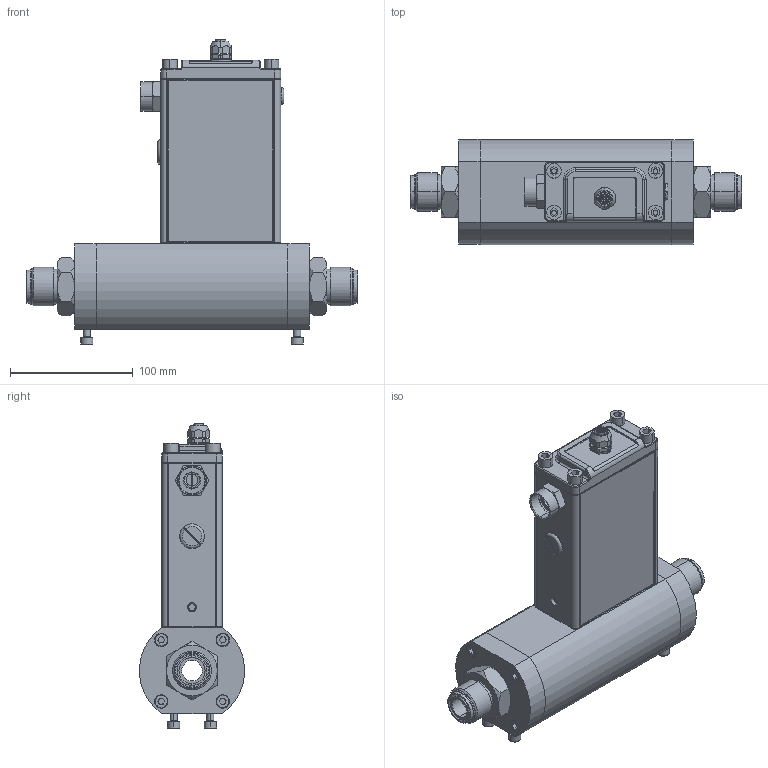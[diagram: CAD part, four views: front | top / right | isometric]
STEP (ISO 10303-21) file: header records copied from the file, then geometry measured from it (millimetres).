
FILE_DESCRIPTION (( 'STEP AP203' ), '1' );
FILE_NAME ('SLAMF63T2Uxx0AxxxREVB.STEP', '2016-09-27T18:24:41', ( 'mrutkowski' ), ( 'Hewlett-Packard Company' ), 'SwSTEP 2.0', 'SolidWorks 2014', '' );
FILE_SCHEMA (( 'CONFIG_CONTROL_DESIGN' ));
Length unit declared in the file: inch
Products named in the file (1): SLAMF63T2Uxx0AxxxREVB
Bounding box: 270.85 x 85.68 x 249.24 mm (x, y, z)
Surface area: 156168.6 mm2 (no closed solid volume)
Topology: 0 solids, 40 shells, 541 faces, 1650 edges, 1101 vertices
Faces by surface type: plane 257, cylinder 170, cone 72, torus 36, bspline 6
Entity records: 19151 total; most frequent: CARTESIAN_POINT 4401, DIRECTION 3193, ORIENTED_EDGE 2716, EDGE_CURVE 1644, AXIS2_PLACEMENT_3D 1203, VERTEX_POINT 1101, VECTOR 787, LINE 787
